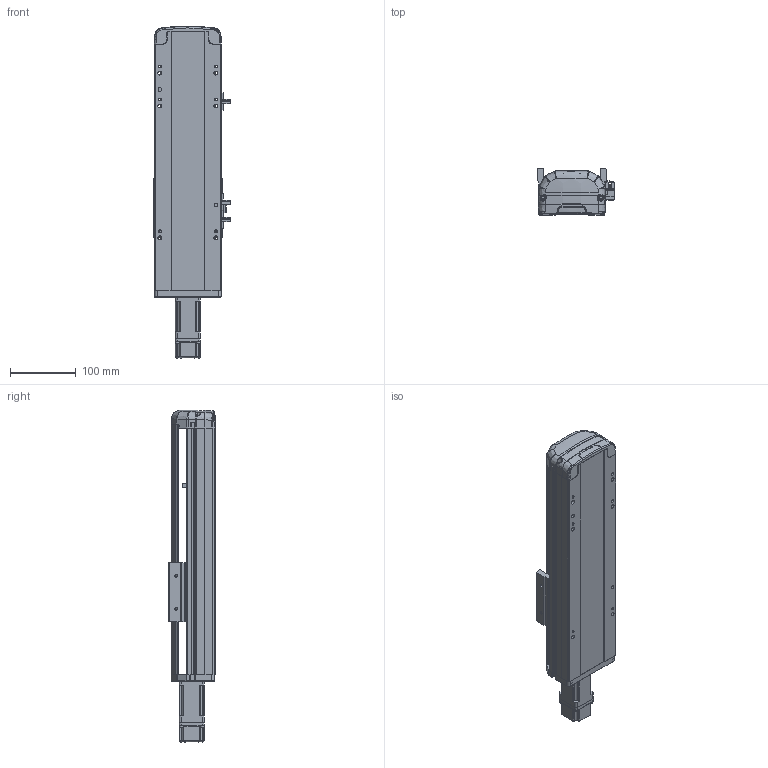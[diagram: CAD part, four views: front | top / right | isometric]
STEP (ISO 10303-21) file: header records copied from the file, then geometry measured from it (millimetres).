
FILE_DESCRIPTION (( 'STEP AP214' ), '1' );
FILE_NAME ('RTH10-XX-150-E-M10-C4.STEP', '2025-10-25T05:21:16', ( 'Microsoft' ), ( 'Microsoft' ), 'SwSTEP 2.0', 'SolidWorks 2018', '' );
FILE_SCHEMA (( 'AUTOMOTIVE_DESIGN' ));
Length unit declared in the file: millimetre
Products named in the file (9): N_RTH12-E-008-M10萇儂啣^RTH10-XX-XX-E-M10-C4; N_RTH12-E-007P-奻裔^RTH10-XX-XX-E-M10-C4; N_P10^RTH10-XX-XX-E-M10-C4; N_RTH12-E-011P-臏倰第菁釱^RTH10-XX-XX-E-M10-C4; N_RTH13-L-012覜茼え俋离^RTH10-XX-XX-E-M10-C4; N_OMRON EE-SX672 传感器^RTH10-XX-XX-E-M10-C4; RTH10-XX-150-E-M10-C4; N_RTH12-GY-001P^RTH10-XX-XX-E-M10-C4; N_RTH12-GY-004-賑釱^RTH10-XX-XX-E-M10-C4
Assembly tree (10 placements, depth 2):
  RTH10-XX-150-E-M10-C4
    N_RTH12-E-011P-臏倰第菁釱^RTH10-XX-XX-E-M10-C4
    N_RTH13-L-012覜茼え俋离^RTH10-XX-XX-E-M10-C4
    N_OMRON EE-SX672 传感器^RTH10-XX-XX-E-M10-C4  x3
    N_P10^RTH10-XX-XX-E-M10-C4
    N_RTH12-E-007P-奻裔^RTH10-XX-XX-E-M10-C4
    N_RTH12-E-008-M10萇儂啣^RTH10-XX-XX-E-M10-C4
    N_RTH12-GY-001P^RTH10-XX-XX-E-M10-C4
    N_RTH12-GY-004-賑釱^RTH10-XX-XX-E-M10-C4
Bounding box: 116.5 x 70 x 503.34 mm (x, y, z)
Volume: 1805503.8 mm3; surface area: 317361 mm2
Topology: 9 solids, 11 shells, 1912 faces, 5299 edges, 3474 vertices
Faces by surface type: plane 964, bspline 472, cylinder 441, cone 33, torus 2
Entity records: 56995 total; most frequent: CARTESIAN_POINT 22814, ORIENTED_EDGE 7678, DIRECTION 5863, EDGE_CURVE 3845, VERTEX_POINT 2518, LINE 2049, VECTOR 2049, AXIS2_PLACEMENT_3D 1907
